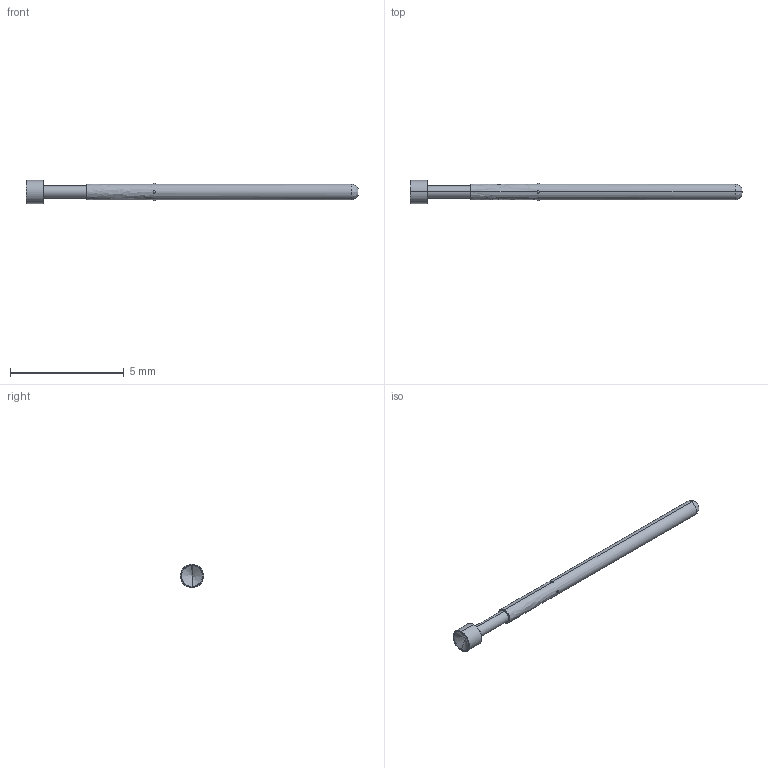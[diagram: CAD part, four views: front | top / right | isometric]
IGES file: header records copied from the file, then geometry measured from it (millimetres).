
Start section: SolidWorks IGES file using analytic representation for surfaces
Global section: file name: O:\PYLON\IGES FILES\P2662B\P2662B-2V1S.IGS; native system: SolidWorks 2015; preprocessor: SolidWorks 2015; author: kgolden; date: 171019.091937; units: inch
Bounding box: 14.57 x 1.02 x 1.02 mm (x, y, z)
Surface area: 35.6 mm2 (no closed solid volume)
Topology: 0 solids, 0 shells, 24 faces, 256 edges, 238 vertices
Faces by surface type: revolution 18, bspline 6
